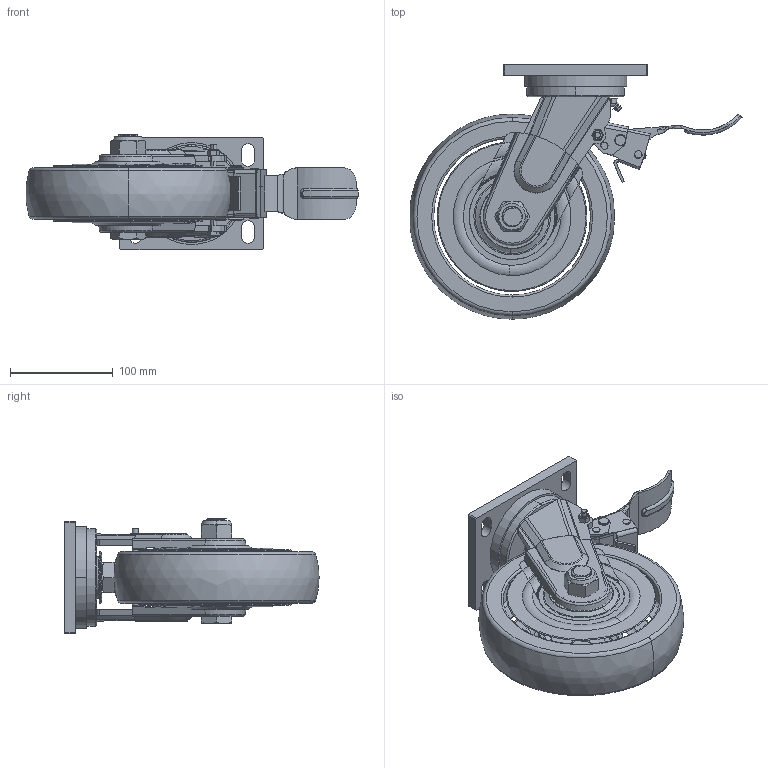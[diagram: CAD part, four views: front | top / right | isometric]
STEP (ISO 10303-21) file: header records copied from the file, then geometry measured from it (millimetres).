
FILE_DESCRIPTION((''),'2;1');
FILE_NAME('PRT0008','2025-03-31T10:44:23',('Administrator'),(''),'CREO PARAMETRIC BY PTC INC, 2022124','CREO PARAMETRIC BY PTC INC, 2022124','');
FILE_SCHEMA(('AP203_CONFIGURATION_CONTROLLED_3D_DESIGN_OF_MECHANICAL_PARTS_AND_ASSEMBLIES_MIM_LF { 1 0 10303 403 2 1 2 }'));
Length unit declared in the file: millimetre
Products named in the file (1): PRT0008
Bounding box: 323.9 x 248 x 113 mm (x, y, z)
Surface area: 230821 mm2 (no closed solid volume)
Topology: 0 solids, 49 shells, 361 faces, 1533 edges, 1181 vertices
Faces by surface type: plane 157, cylinder 68, cone 51, torus 51, bspline 34
Entity records: 22078 total; most frequent: CARTESIAN_POINT 8012, ORIENTED_EDGE 2179, DIRECTION 2143, EDGE_CURVE 1533, VERTEX_POINT 1195, AXIS2_PLACEMENT_3D 833, B_SPLINE_CURVE_WITH_KNOTS 563, CIRCLE 496
